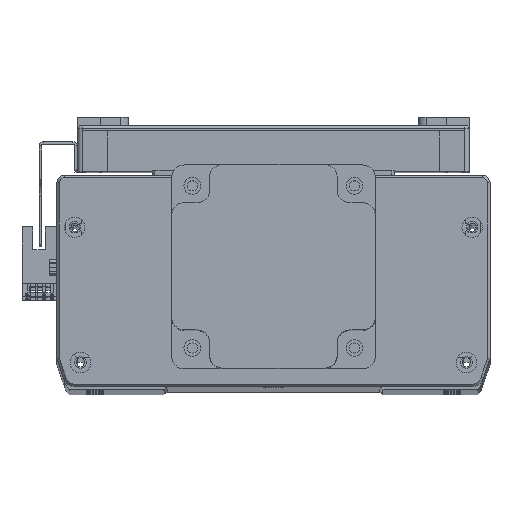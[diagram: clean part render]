
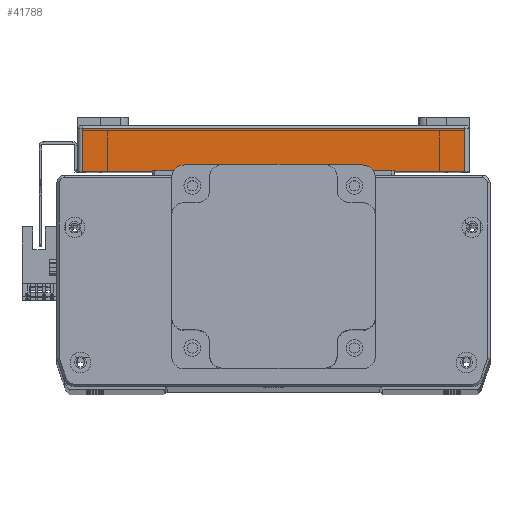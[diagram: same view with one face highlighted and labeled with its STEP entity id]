
A CAD part, top view. The second image highlights one B-rep face of the part: STEP entity #41788.
In plain terms, the highlighted planar face has unit normal (0, 0, 1) as drawn and (-1, 0, 0) by its records, which use the part's own axes.
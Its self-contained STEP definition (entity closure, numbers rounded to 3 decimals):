
#444 = CARTESIAN_POINT ( 'NONE',  ( -115., 0., -75. ) ) ;
#1479 = CARTESIAN_POINT ( 'NONE',  ( -115., 0., 75. ) ) ;
#6407 = VECTOR ( 'NONE', #57688, 1000. ) ;
#6419 = LINE ( 'NONE', #57706, #6407 ) ;
#6458 = LINE ( 'NONE', #57734, #6459 ) ;
#6459 = VECTOR ( 'NONE', #57735, 1000. ) ;
#6472 = VECTOR ( 'NONE', #57793, 1000. ) ;
#6488 = LINE ( 'NONE', #57792, #6472 ) ;
#6491 = LINE ( 'NONE', #58422, #6502 ) ;
#6502 = VECTOR ( 'NONE', #58489, 1000. ) ;
#7365 = VERTEX_POINT ( 'NONE', #1479 ) ;
#12883 = ORIENTED_EDGE ( 'NONE', *, *, #43951, .T. ) ;
#12897 = ORIENTED_EDGE ( 'NONE', *, *, #43984, .T. ) ;
#12925 = ORIENTED_EDGE ( 'NONE', *, *, #43948, .T. ) ;
#12933 = ORIENTED_EDGE ( 'NONE', *, *, #43997, .T. ) ;
#15787 = VERTEX_POINT ( 'NONE', #67288 ) ;
#15816 = VERTEX_POINT ( 'NONE', #41162 ) ;
#23772 = VERTEX_POINT ( 'NONE', #444 ) ;
#32368 = EDGE_LOOP ( 'NONE', ( #12925, #12897, #12883, #12933 ) ) ;
#33573 = FACE_OUTER_BOUND ( 'NONE', #32368, .T. ) ;
#34351 = CARTESIAN_POINT ( 'NONE',  ( -115., 18., -77. ) ) ;
#34358 = PLANE ( 'NONE',  #64442 ) ;
#34375 = DIRECTION ( 'NONE',  ( 0., 0., -1. ) ) ;
#34392 = DIRECTION ( 'NONE',  ( 1., 0., 0. ) ) ;
#41162 = CARTESIAN_POINT ( 'NONE',  ( -115., 17., -75. ) ) ;
#41788 = ADVANCED_FACE ( 'NONE', ( #33573 ), #34358, .F. ) ;
#43948 = EDGE_CURVE ( 'NONE', #7365, #15787, #6419, .T. ) ;
#43951 = EDGE_CURVE ( 'NONE', #15816, #23772, #6458, .T. ) ;
#43984 = EDGE_CURVE ( 'NONE', #15787, #15816, #6488, .T. ) ;
#43997 = EDGE_CURVE ( 'NONE', #23772, #7365, #6491, .T. ) ;
#57688 = DIRECTION ( 'NONE',  ( 0., 1., 0. ) ) ;
#57706 = CARTESIAN_POINT ( 'NONE',  ( -115., 18., 75. ) ) ;
#57734 = CARTESIAN_POINT ( 'NONE',  ( -115., 18., -75. ) ) ;
#57735 = DIRECTION ( 'NONE',  ( 0., -1., 0. ) ) ;
#57792 = CARTESIAN_POINT ( 'NONE',  ( -115., 17., -75. ) ) ;
#57793 = DIRECTION ( 'NONE',  ( 0., 0., -1. ) ) ;
#58422 = CARTESIAN_POINT ( 'NONE',  ( -115., 0., -77. ) ) ;
#58489 = DIRECTION ( 'NONE',  ( 0., 0., 1. ) ) ;
#64442 = AXIS2_PLACEMENT_3D ( 'NONE', #34351, #34392, #34375 ) ;
#67288 = CARTESIAN_POINT ( 'NONE',  ( -115., 17., 75. ) ) ;
